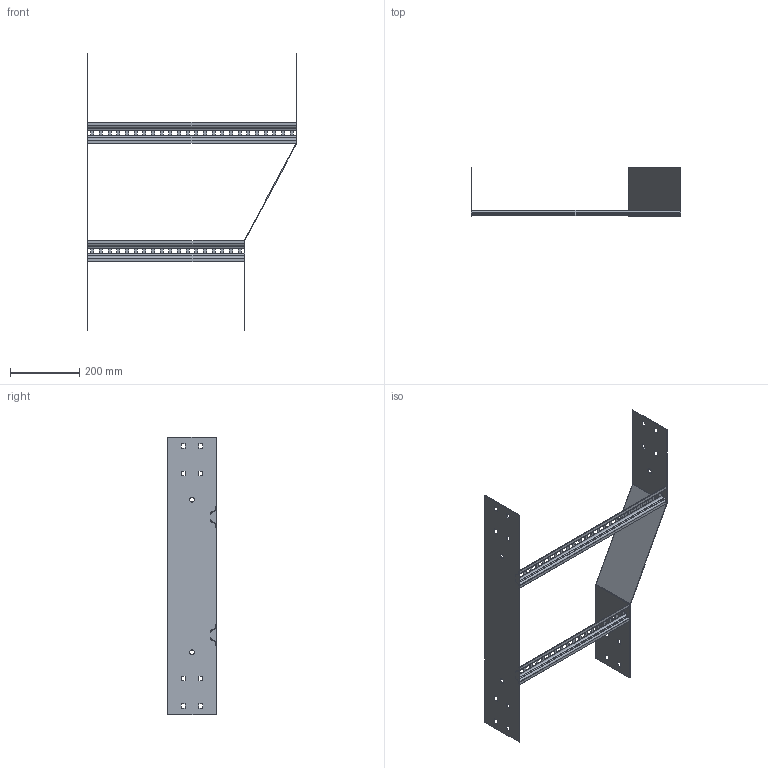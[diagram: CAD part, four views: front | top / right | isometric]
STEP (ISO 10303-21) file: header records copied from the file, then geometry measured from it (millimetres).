
FILE_DESCRIPTION (( 'STEP AP203' ), '1' );
FILE_NAME ('N20C LHR600450.STEP', '2024-08-28T22:25:51', ( '' ), ( '' ), 'SwSTEP 2.0', 'SolidWorks 2023', '' );
FILE_SCHEMA (( 'CONFIG_CONTROL_DESIGN' ));
Length unit declared in the file: millimetre
Products named in the file (5): Ladder Rung_Ladder Rung -  450mm; N20C REDUCER_LHR450x600; N20C Tee Back Plate_800; N20C LHR600450; Ladder Rung_Ladder Rung -  600mm
Assembly tree (4 placements, depth 2):
  N20C LHR600450
    N20C REDUCER_LHR450x600
    Ladder Rung_Ladder Rung -  450mm
    Ladder Rung_Ladder Rung -  600mm
    N20C Tee Back Plate_800
Bounding box: 604 x 140 x 800 mm (x, y, z)
Volume: 564742 mm3; surface area: 609960.2 mm2
Topology: 4 solids, 4 shells, 352 faces, 952 edges, 608 vertices
Faces by surface type: plane 324, cylinder 28
Entity records: 11535 total; most frequent: CARTESIAN_POINT 1919, ORIENTED_EDGE 1904, DIRECTION 1726, EDGE_CURVE 952, VECTOR 896, LINE 896, VERTEX_POINT 608, EDGE_LOOP 472
